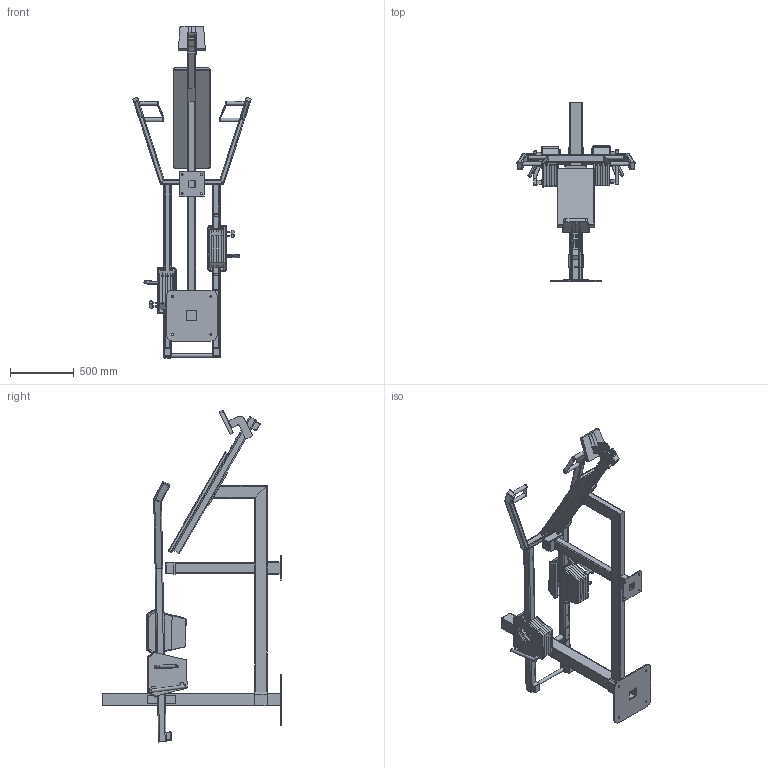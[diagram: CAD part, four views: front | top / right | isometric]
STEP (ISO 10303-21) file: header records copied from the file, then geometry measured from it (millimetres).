
FILE_DESCRIPTION(/* description */ (''),/* implementation_level */ '2;1');
FILE_NAME(/* name */ 'OG31_3D_Low.step',/* time_stamp */ '2025-11-11T16:01:13+02:00',/* author */ (''),/* organization */ (''),/* preprocessor_version */ 'ST-DEVELOPER v20.1',/* originating_system */ 'Autodesk Translation Framework v14.21.0.0',/* authorisation */ '');
FILE_SCHEMA (('AUTOMOTIVE_DESIGN { 1 0 10303 214 3 1 1 }'));
Length unit declared in the file: millimetre
Products named in the file (1): OG31_3D_Low
Bounding box: 929.01 x 1413 x 2608.15 mm (x, y, z)
Volume: 35257995.2 mm3; surface area: 8764273.9 mm2
Topology: 85 solids, 85 shells, 1505 faces, 3731 edges, 2373 vertices
Faces by surface type: plane 823, cylinder 586, torus 50, bspline 22, sphere 16, cone 8
Full cylindrical faces by diameter (mm): 8.5 x4, 10 x1, 11 x3, 11.8 x1, 13 x29, 14 x4, 16 x4, 18 x2, 24 x2, 25 x2, 28 x1, 28.2 x2, 29 x2, 30 x6, 31 x6, 39.8 x2, 40 x4, 40.2 x1
Entity records: 46683 total; most frequent: CARTESIAN_POINT 9587, DIRECTION 7900, ORIENTED_EDGE 7462, EDGE_CURVE 3731, AXIS2_PLACEMENT_3D 2784, VERTEX_POINT 2373, LINE 2332, VECTOR 2332
